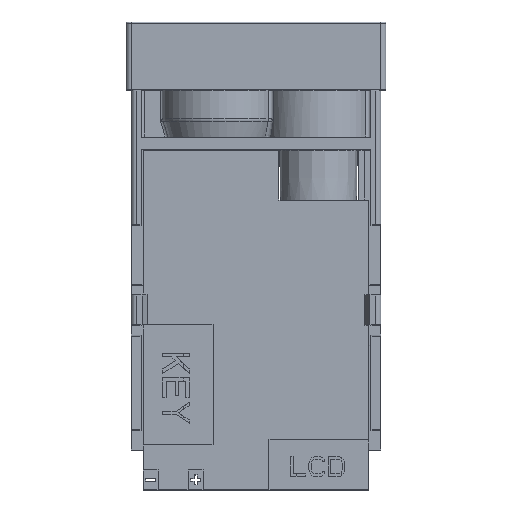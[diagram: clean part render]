
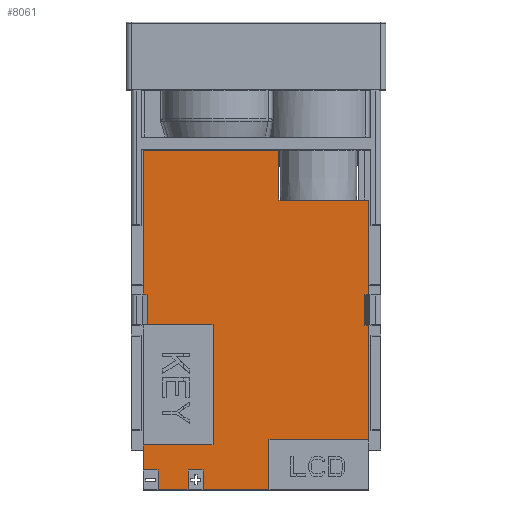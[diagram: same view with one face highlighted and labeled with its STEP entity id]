
A CAD part, top view. The second image highlights one B-rep face of the part: STEP entity #8061.
In plain terms, the highlighted planar face has unit normal (0, 0, 1).
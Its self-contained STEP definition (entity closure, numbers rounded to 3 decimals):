
#10=DIRECTION('',(-1.,0.,0.));
#11=VECTOR('',#10,9.);
#12=CARTESIAN_POINT('',(11.3,70.087,16.487));
#13=LINE('',#12,#11);
#473=DIRECTION('',(0.,1.,0.));
#474=VECTOR('',#473,5.);
#475=CARTESIAN_POINT('',(2.3,70.087,16.487));
#476=LINE('',#475,#474);
#485=DIRECTION('',(0.,-1.,0.));
#486=VECTOR('',#485,3.);
#487=CARTESIAN_POINT('',(10.9,60.587,16.487));
#488=LINE('',#487,#486);
#489=DIRECTION('',(1.,0.,0.));
#490=VECTOR('',#489,0.4);
#491=CARTESIAN_POINT('',(10.9,57.587,16.487));
#492=LINE('',#491,#490);
#493=DIRECTION('',(0.,-1.,0.));
#494=VECTOR('',#493,5.);
#495=CARTESIAN_POINT('',(1.3,46.087,16.487));
#496=LINE('',#495,#494);
#497=DIRECTION('',(0.,-1.,0.));
#498=VECTOR('',#497,2.);
#499=CARTESIAN_POINT('',(-6.8,43.087,16.487));
#500=LINE('',#499,#498);
#501=DIRECTION('',(-1.,0.,0.));
#502=VECTOR('',#501,1.5);
#503=CARTESIAN_POINT('',(-9.8,43.087,16.487));
#504=LINE('',#503,#502);
#505=DIRECTION('',(-1.,0.,0.));
#506=VECTOR('',#505,6.6);
#507=CARTESIAN_POINT('',(-4.3,57.587,16.487));
#508=LINE('',#507,#506);
#509=DIRECTION('',(0.,1.,0.));
#510=VECTOR('',#509,3.);
#511=CARTESIAN_POINT('',(-10.9,57.587,16.487));
#512=LINE('',#511,#510);
#513=DIRECTION('',(-1.,0.,0.));
#514=VECTOR('',#513,0.4);
#515=CARTESIAN_POINT('',(-10.9,60.587,16.487));
#516=LINE('',#515,#514);
#529=DIRECTION('',(1.,0.,0.));
#530=VECTOR('',#529,0.4);
#531=CARTESIAN_POINT('',(10.9,60.587,16.487));
#532=LINE('',#531,#530);
#1301=DIRECTION('',(-1.,0.,0.));
#1302=VECTOR('',#1301,13.6);
#1303=CARTESIAN_POINT('',(2.3,75.087,16.487));
#1304=LINE('',#1303,#1302);
#1491=DIRECTION('',(0.,-1.,0.));
#1492=VECTOR('',#1491,2.5);
#1493=CARTESIAN_POINT('',(-11.3,45.587,16.487));
#1494=LINE('',#1493,#1492);
#1499=DIRECTION('',(0.,-1.,0.));
#1500=VECTOR('',#1499,14.5);
#1501=CARTESIAN_POINT('',(-11.3,75.087,16.487));
#1502=LINE('',#1501,#1500);
#1563=DIRECTION('',(0.,-1.,0.));
#1564=VECTOR('',#1563,12.);
#1565=CARTESIAN_POINT('',(-4.3,57.587,16.487));
#1566=LINE('',#1565,#1564);
#2115=DIRECTION('',(0.,1.,0.));
#2116=VECTOR('',#2115,11.5);
#2117=CARTESIAN_POINT('',(11.3,46.087,16.487));
#2118=LINE('',#2117,#2116);
#2123=DIRECTION('',(0.,1.,0.));
#2124=VECTOR('',#2123,9.5);
#2125=CARTESIAN_POINT('',(11.3,60.587,16.487));
#2126=LINE('',#2125,#2124);
#2131=DIRECTION('',(1.,0.,0.));
#2132=VECTOR('',#2131,3.);
#2133=CARTESIAN_POINT('',(-9.8,41.087,16.487));
#2134=LINE('',#2133,#2132);
#2139=DIRECTION('',(1.,0.,0.));
#2140=VECTOR('',#2139,6.6);
#2141=CARTESIAN_POINT('',(-5.3,41.087,16.487));
#2142=LINE('',#2141,#2140);
#2171=DIRECTION('',(0.,-1.,0.));
#2172=VECTOR('',#2171,2.);
#2173=CARTESIAN_POINT('',(-9.8,43.087,16.487));
#2174=LINE('',#2173,#2172);
#2231=DIRECTION('',(1.,0.,0.));
#2232=VECTOR('',#2231,1.5);
#2233=CARTESIAN_POINT('',(-6.8,43.087,16.487));
#2234=LINE('',#2233,#2232);
#2239=DIRECTION('',(0.,-1.,0.));
#2240=VECTOR('',#2239,2.);
#2241=CARTESIAN_POINT('',(-5.3,43.087,16.487));
#2242=LINE('',#2241,#2240);
#2531=DIRECTION('',(1.,0.,0.));
#2532=VECTOR('',#2531,10.);
#2533=CARTESIAN_POINT('',(1.3,46.087,16.487));
#2534=LINE('',#2533,#2532);
#4579=DIRECTION('',(-1.,0.,0.));
#4580=VECTOR('',#4579,7.);
#4581=CARTESIAN_POINT('',(-4.3,45.587,16.487));
#4582=LINE('',#4581,#4580);
#5814=CARTESIAN_POINT('',(11.3,70.087,16.487));
#5815=VERTEX_POINT('',#5814);
#5816=CARTESIAN_POINT('',(2.3,70.087,16.487));
#5817=VERTEX_POINT('',#5816);
#5962=CARTESIAN_POINT('',(-6.8,43.087,16.487));
#5963=VERTEX_POINT('',#5962);
#5964=CARTESIAN_POINT('',(-5.3,43.087,16.487));
#5965=VERTEX_POINT('',#5964);
#5966=CARTESIAN_POINT('',(-6.8,41.087,16.487));
#5967=VERTEX_POINT('',#5966);
#5972=CARTESIAN_POINT('',(-9.8,41.087,16.487));
#5973=VERTEX_POINT('',#5972);
#5974=CARTESIAN_POINT('',(-5.3,41.087,16.487));
#5975=VERTEX_POINT('',#5974);
#5976=CARTESIAN_POINT('',(1.3,41.087,16.487));
#5977=VERTEX_POINT('',#5976);
#6002=CARTESIAN_POINT('',(-11.3,43.087,16.487));
#6003=VERTEX_POINT('',#6002);
#6004=CARTESIAN_POINT('',(-9.8,43.087,16.487));
#6005=VERTEX_POINT('',#6004);
#6010=CARTESIAN_POINT('',(-11.3,45.587,16.487));
#6011=VERTEX_POINT('',#6010);
#6014=CARTESIAN_POINT('',(-11.3,75.087,16.487));
#6015=VERTEX_POINT('',#6014);
#6016=CARTESIAN_POINT('',(-11.3,60.587,16.487));
#6017=VERTEX_POINT('',#6016);
#6100=CARTESIAN_POINT('',(-4.3,57.587,16.487));
#6101=VERTEX_POINT('',#6100);
#6102=CARTESIAN_POINT('',(-4.3,45.587,16.487));
#6103=VERTEX_POINT('',#6102);
#6105=CARTESIAN_POINT('',(-10.9,57.587,16.487));
#6107=VERTEX_POINT('',#6105);
#6110=CARTESIAN_POINT('',(-10.9,60.587,16.487));
#6111=VERTEX_POINT('',#6110);
#6397=CARTESIAN_POINT('',(2.3,75.087,16.487));
#6398=VERTEX_POINT('',#6397);
#6451=CARTESIAN_POINT('',(10.9,60.587,16.487));
#6452=CARTESIAN_POINT('',(10.9,57.587,16.487));
#6453=VERTEX_POINT('',#6451);
#6454=VERTEX_POINT('',#6452);
#6455=CARTESIAN_POINT('',(11.3,57.587,16.487));
#6456=VERTEX_POINT('',#6455);
#6457=CARTESIAN_POINT('',(11.3,46.087,16.487));
#6458=VERTEX_POINT('',#6457);
#6459=CARTESIAN_POINT('',(1.3,46.087,16.487));
#6460=VERTEX_POINT('',#6459);
#6461=CARTESIAN_POINT('',(11.3,60.587,16.487));
#6462=VERTEX_POINT('',#6461);
#8008=CARTESIAN_POINT('',(-3.75,84.087,16.487));
#8009=DIRECTION('',(0.,0.,1.));
#8010=DIRECTION('',(1.,0.,0.));
#8011=AXIS2_PLACEMENT_3D('',#8008,#8009,#8010);
#8012=PLANE('',#8011);
#8014=ORIENTED_EDGE('',*,*,#8013,.T.);
#8016=ORIENTED_EDGE('',*,*,#8015,.T.);
#8018=ORIENTED_EDGE('',*,*,#8017,.F.);
#8020=ORIENTED_EDGE('',*,*,#8019,.F.);
#8022=ORIENTED_EDGE('',*,*,#8021,.T.);
#8024=ORIENTED_EDGE('',*,*,#8023,.F.);
#8026=ORIENTED_EDGE('',*,*,#8025,.F.);
#8028=ORIENTED_EDGE('',*,*,#8027,.F.);
#8030=ORIENTED_EDGE('',*,*,#8029,.T.);
#8032=ORIENTED_EDGE('',*,*,#8031,.F.);
#8034=ORIENTED_EDGE('',*,*,#8033,.F.);
#8036=ORIENTED_EDGE('',*,*,#8035,.T.);
#8038=ORIENTED_EDGE('',*,*,#8037,.F.);
#8040=ORIENTED_EDGE('',*,*,#8039,.F.);
#8042=ORIENTED_EDGE('',*,*,#8041,.F.);
#8044=ORIENTED_EDGE('',*,*,#8043,.T.);
#8046=ORIENTED_EDGE('',*,*,#8045,.T.);
#8048=ORIENTED_EDGE('',*,*,#8047,.T.);
#8050=ORIENTED_EDGE('',*,*,#8049,.F.);
#8052=ORIENTED_EDGE('',*,*,#8051,.F.);
#8053=ORIENTED_EDGE('',*,*,#7999,.F.);
#8054=ORIENTED_EDGE('',*,*,#7506,.F.);
#8056=ORIENTED_EDGE('',*,*,#8055,.F.);
#8058=ORIENTED_EDGE('',*,*,#8057,.F.);
#8059=EDGE_LOOP('',(#8014,#8016,#8018,#8020,#8022,#8024,#8026,#8028,#8030,#8032,
#8034,#8036,#8038,#8040,#8042,#8044,#8046,#8048,#8050,#8052,#8053,#8054,#8056,
#8058));
#8060=FACE_OUTER_BOUND('',#8059,.F.);
#7506=EDGE_CURVE('',#5815,#5817,#13,.T.);
#7999=EDGE_CURVE('',#5817,#6398,#476,.T.);
#8013=EDGE_CURVE('',#6453,#6454,#488,.T.);
#8015=EDGE_CURVE('',#6454,#6456,#492,.T.);
#8017=EDGE_CURVE('',#6458,#6456,#2118,.T.);
#8019=EDGE_CURVE('',#6460,#6458,#2534,.T.);
#8021=EDGE_CURVE('',#6460,#5977,#496,.T.);
#8023=EDGE_CURVE('',#5975,#5977,#2142,.T.);
#8025=EDGE_CURVE('',#5965,#5975,#2242,.T.);
#8027=EDGE_CURVE('',#5963,#5965,#2234,.T.);
#8029=EDGE_CURVE('',#5963,#5967,#500,.T.);
#8031=EDGE_CURVE('',#5973,#5967,#2134,.T.);
#8033=EDGE_CURVE('',#6005,#5973,#2174,.T.);
#8035=EDGE_CURVE('',#6005,#6003,#504,.T.);
#8037=EDGE_CURVE('',#6011,#6003,#1494,.T.);
#8039=EDGE_CURVE('',#6103,#6011,#4582,.T.);
#8041=EDGE_CURVE('',#6101,#6103,#1566,.T.);
#8043=EDGE_CURVE('',#6101,#6107,#508,.T.);
#8045=EDGE_CURVE('',#6107,#6111,#512,.T.);
#8047=EDGE_CURVE('',#6111,#6017,#516,.T.);
#8049=EDGE_CURVE('',#6015,#6017,#1502,.T.);
#8051=EDGE_CURVE('',#6398,#6015,#1304,.T.);
#8055=EDGE_CURVE('',#6462,#5815,#2126,.T.);
#8057=EDGE_CURVE('',#6453,#6462,#532,.T.);
#8061=ADVANCED_FACE('',(#8060),#8012,.T.);
